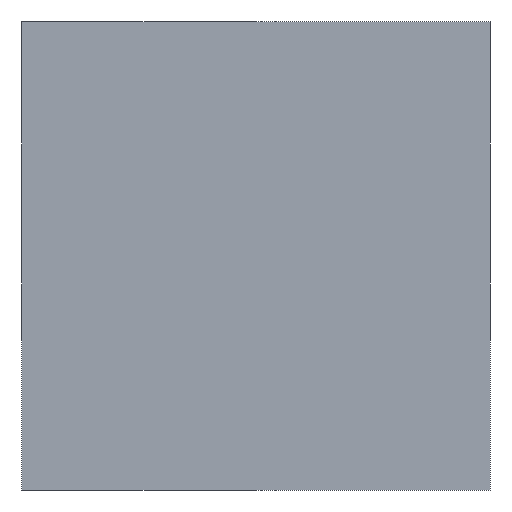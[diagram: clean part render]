
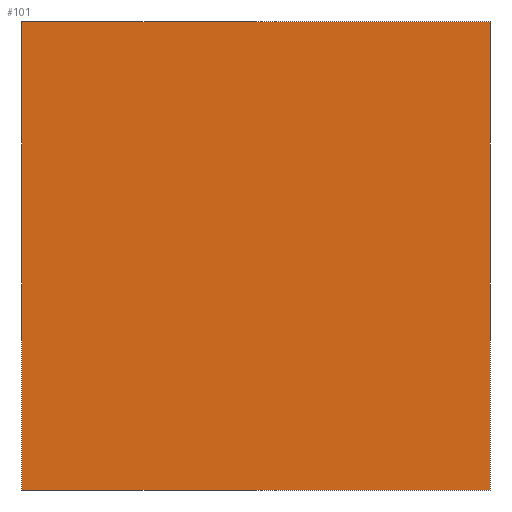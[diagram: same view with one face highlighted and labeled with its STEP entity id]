
A CAD part, front view. The second image highlights one B-rep face of the part: STEP entity #101.
In plain terms, the highlighted planar face has unit normal (0, -1, 0).
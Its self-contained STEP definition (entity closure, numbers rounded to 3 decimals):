
#21 = EDGE_CURVE('',#22,#24,#26,.T.);
#22 = VERTEX_POINT('',#23);
#23 = CARTESIAN_POINT('',(547.35,1176.8,5.825));
#24 = VERTEX_POINT('',#25);
#25 = CARTESIAN_POINT('',(547.35,1176.8,24.575));
#26 = LINE('',#27,#28);
#27 = CARTESIAN_POINT('',(547.35,1176.8,5.825));
#28 = VECTOR('',#29,1.);
#29 = DIRECTION('',(0.,0.,1.));
#101 = ADVANCED_FACE('',(#102),#127,.F.);
#102 = FACE_BOUND('',#103,.F.);
#103 = EDGE_LOOP('',(#104,#112,#113,#121));
#104 = ORIENTED_EDGE('',*,*,#105,.F.);
#105 = EDGE_CURVE('',#22,#106,#108,.T.);
#106 = VERTEX_POINT('',#107);
#107 = CARTESIAN_POINT('',(566.1,1176.8,5.825));
#108 = LINE('',#109,#110);
#109 = CARTESIAN_POINT('',(547.35,1176.8,5.825));
#110 = VECTOR('',#111,1.);
#111 = DIRECTION('',(1.,0.,0.));
#112 = ORIENTED_EDGE('',*,*,#21,.T.);
#113 = ORIENTED_EDGE('',*,*,#114,.T.);
#114 = EDGE_CURVE('',#24,#115,#117,.T.);
#115 = VERTEX_POINT('',#116);
#116 = CARTESIAN_POINT('',(566.1,1176.8,24.575));
#117 = LINE('',#118,#119);
#118 = CARTESIAN_POINT('',(547.35,1176.8,24.575));
#119 = VECTOR('',#120,1.);
#120 = DIRECTION('',(1.,0.,0.));
#121 = ORIENTED_EDGE('',*,*,#122,.F.);
#122 = EDGE_CURVE('',#106,#115,#123,.T.);
#123 = LINE('',#124,#125);
#124 = CARTESIAN_POINT('',(566.1,1176.8,5.825));
#125 = VECTOR('',#126,1.);
#126 = DIRECTION('',(0.,0.,1.));
#127 = PLANE('',#128);
#128 = AXIS2_PLACEMENT_3D('',#129,#130,#131);
#129 = CARTESIAN_POINT('',(547.35,1176.8,5.825));
#130 = DIRECTION('',(0.,1.,0.));
#131 = DIRECTION('',(0.,0.,1.));
